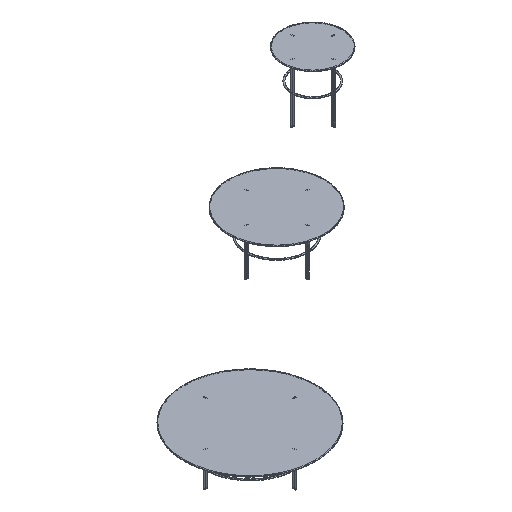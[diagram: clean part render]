
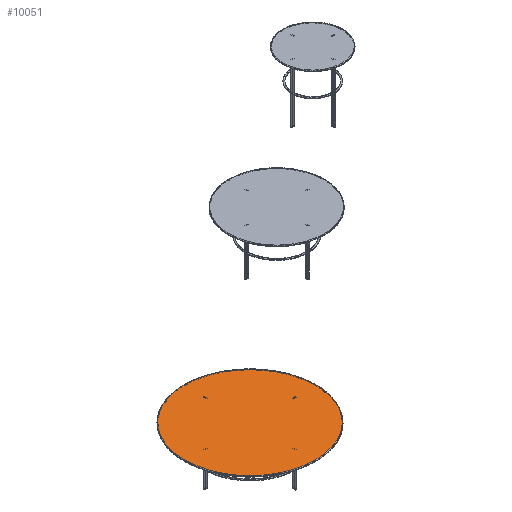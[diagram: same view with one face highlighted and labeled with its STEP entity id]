
A CAD part, isometric view. The second image highlights one B-rep face of the part: STEP entity #10051.
In plain terms, the highlighted planar face has unit normal (0, 0, 1).
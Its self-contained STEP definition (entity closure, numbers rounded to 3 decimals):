
#10051=ADVANCED_FACE('',(#10615),#21229,.T.);
#10615=FACE_OUTER_BOUND('',#11179,.T.);
#11179=EDGE_LOOP('',(#13299,#13300));
#13299=ORIENTED_EDGE('',*,*,#14395,.T.);
#13300=ORIENTED_EDGE('',*,*,#14402,.T.);
#14395=EDGE_CURVE('',#21119,#21123,#20500,.T.);
#14402=EDGE_CURVE('',#21123,#21119,#20507,.T.);
#20500=(
BOUNDED_CURVE()
B_SPLINE_CURVE(2,(#93919,#93920,#93921,#93922,#93923),.UNSPECIFIED.,.F.,
 .F.)
B_SPLINE_CURVE_WITH_KNOTS((3,2,3),(0.,856.869,1713.738),
 .UNSPECIFIED.)
CURVE()
GEOMETRIC_REPRESENTATION_ITEM()
RATIONAL_B_SPLINE_CURVE((1.,0.707,1.,0.707,1.))
REPRESENTATION_ITEM('')
);
#20507=(
BOUNDED_CURVE()
B_SPLINE_CURVE(2,(#93947,#93948,#93949,#93950,#93951),.UNSPECIFIED.,.F.,
 .F.)
B_SPLINE_CURVE_WITH_KNOTS((3,2,3),(1713.738,2570.607,3427.476),
 .UNSPECIFIED.)
CURVE()
GEOMETRIC_REPRESENTATION_ITEM()
RATIONAL_B_SPLINE_CURVE((1.,0.707,1.,0.707,1.))
REPRESENTATION_ITEM('')
);
#21119=VERTEX_POINT('',#93891);
#21123=VERTEX_POINT('',#93895);
#21229=PLANE('',#21813);
#21813=AXIS2_PLACEMENT_3D('',#93817,#21919,$);
#21919=DIRECTION('',(0.,0.,1.));
#93817=CARTESIAN_POINT('',(-4015.9,770.538,10.));
#93891=CARTESIAN_POINT('',(-2782.9,1458.038,10.));
#93895=CARTESIAN_POINT('',(-3873.9,1458.038,10.));
#93919=CARTESIAN_POINT('',(-2782.9,1458.038,10.));
#93920=CARTESIAN_POINT('',(-2782.9,2003.538,10.));
#93921=CARTESIAN_POINT('',(-3328.4,2003.538,10.));
#93922=CARTESIAN_POINT('',(-3873.9,2003.538,10.));
#93923=CARTESIAN_POINT('',(-3873.9,1458.038,10.));
#93947=CARTESIAN_POINT('',(-3873.9,1458.038,10.));
#93948=CARTESIAN_POINT('',(-3873.9,912.538,10.));
#93949=CARTESIAN_POINT('',(-3328.4,912.538,10.));
#93950=CARTESIAN_POINT('',(-2782.9,912.538,10.));
#93951=CARTESIAN_POINT('',(-2782.9,1458.038,10.));
